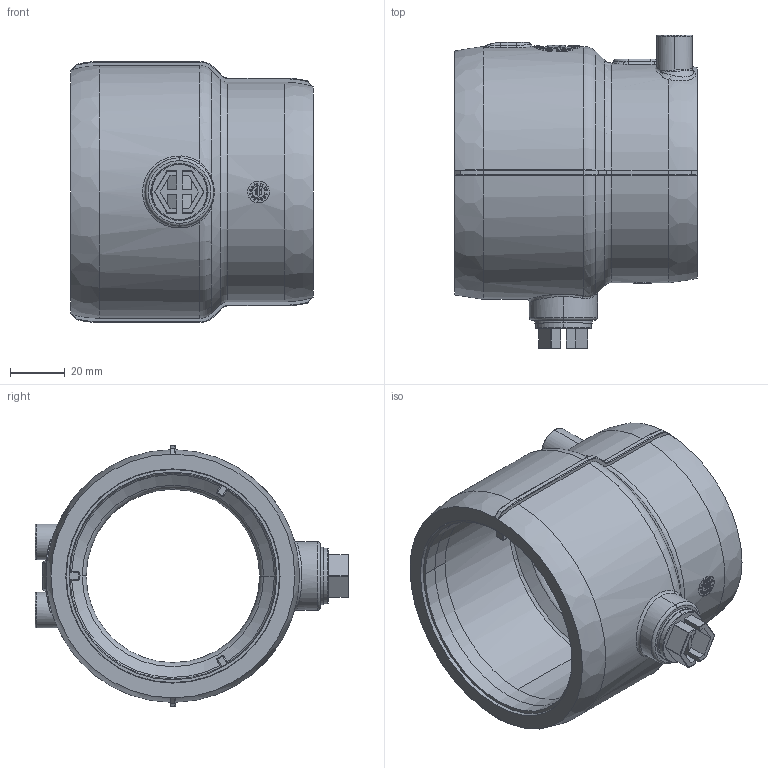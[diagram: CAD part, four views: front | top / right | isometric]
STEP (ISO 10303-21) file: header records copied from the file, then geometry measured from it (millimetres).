
FILE_DESCRIPTION (( 'STEP AP203' ), '1' );
FILE_NAME ('KP_T75-63SC04.STEP', '2012-01-18T10:50:21', ( '' ), ( '' ), 'SwSTEP 2.0', 'SolidWorks 2012', '' );
FILE_SCHEMA (( 'CONFIG_CONTROL_DESIGN' ));
Length unit declared in the file: millimetre
Products named in the file (1): KP_T75-63SC04
Bounding box: 88.74 x 115.02 x 95.6 mm (x, y, z)
Volume: 198362.3 mm3; surface area: 53660.8 mm2
Topology: 1 solids, 6 shells, 829 faces, 2105 edges, 1350 vertices
Faces by surface type: plane 364, bspline 202, cylinder 161, cone 48, torus 42, sphere 12
Entity records: 35942 total; most frequent: CARTESIAN_POINT 18153, ORIENTED_EDGE 4198, DIRECTION 2915, EDGE_CURVE 2099, VERTEX_POINT 1348, AXIS2_PLACEMENT_3D 1004, EDGE_LOOP 907, VECTOR 907
